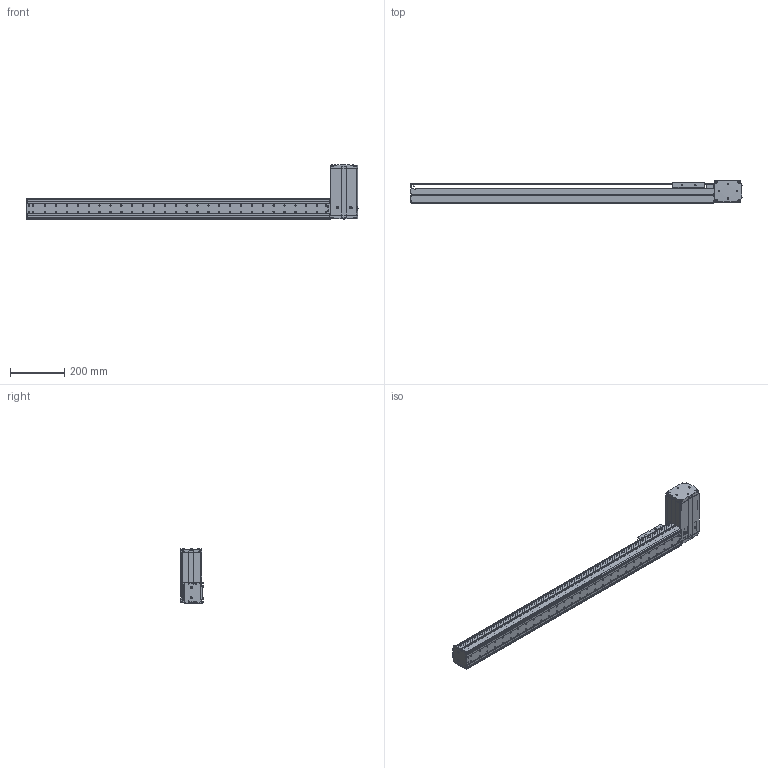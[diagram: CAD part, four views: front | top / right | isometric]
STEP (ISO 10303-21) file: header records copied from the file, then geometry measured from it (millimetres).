
FILE_DESCRIPTION((''),'2;1');
FILE_NAME('BE10_-BR-M_N-90_IGS_PRT','2017-06-18T',(' '),(''),'PRO/ENGINEER BY PARAMETRIC TECHNOLOGY CORPORATION, 2015030','PRO/ENGINEER BY PARAMETRIC TECHNOLOGY CORPORATION, 2015030','');
FILE_SCHEMA(('CONFIG_CONTROL_DESIGN'));
Products named in the file (1): BE10_-BR-M_N-90_IGS_PRT
Bounding box: 1220.8 x 82.5 x 200.22 mm (x, y, z)
Volume: 1511169.5 mm3; surface area: 1074538.1 mm2
Topology: 3 solids, 146 shells, 2124 faces, 5797 edges, 3821 vertices
Faces by surface type: plane 999, cylinder 954, cone 111, sphere 30, torus 27, bspline 3
Entity records: 69010 total; most frequent: CARTESIAN_POINT 14073, DIRECTION 11664, ORIENTED_EDGE 10974, EDGE_CURVE 5735, AXIS2_PLACEMENT_3D 4199, VERTEX_POINT 3821, VECTOR 3266, LINE 3266
